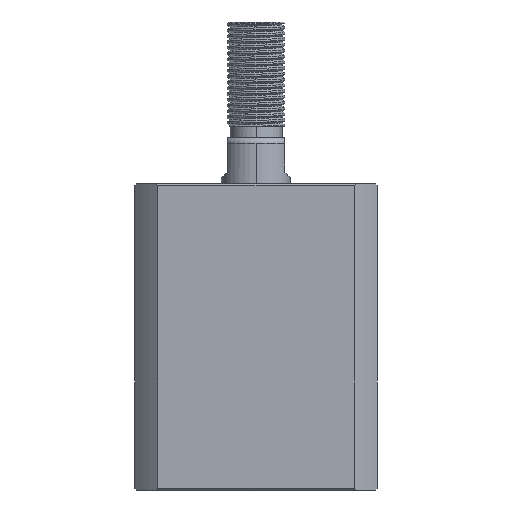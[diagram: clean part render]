
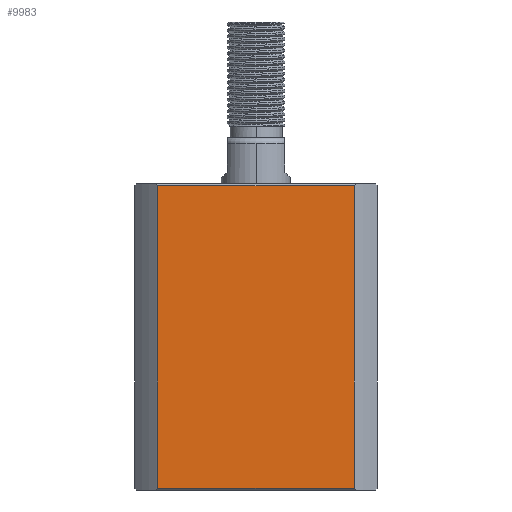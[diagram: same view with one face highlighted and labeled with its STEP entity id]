
A CAD part, left-side view. The second image highlights one B-rep face of the part: STEP entity #9983.
In plain terms, the highlighted planar face has unit normal (-1, 0, 0).
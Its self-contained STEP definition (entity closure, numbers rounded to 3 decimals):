
#394 = CARTESIAN_POINT ( 'NONE',  ( -21., 16.971, -247. ) ) ;
#684 = LINE ( 'NONE', #1807, #9586 ) ;
#775 = EDGE_CURVE ( 'NONE', #2539, #13524, #4224, .T. ) ;
#823 = ORIENTED_EDGE ( 'NONE', *, *, #3015, .F. ) ;
#978 = LINE ( 'NONE', #394, #10234 ) ;
#1384 = ORIENTED_EDGE ( 'NONE', *, *, #5243, .F. ) ;
#1807 = CARTESIAN_POINT ( 'NONE',  ( -21., -16.971, -247. ) ) ;
#1867 = CARTESIAN_POINT ( 'NONE',  ( -21., 21., 53. ) ) ;
#2209 = CARTESIAN_POINT ( 'NONE',  ( -21., 21., 52.7 ) ) ;
#2539 = VERTEX_POINT ( 'NONE', #11443 ) ;
#3015 = EDGE_CURVE ( 'NONE', #4461, #13524, #978, .T. ) ;
#3063 = CARTESIAN_POINT ( 'NONE',  ( -21., 16.971, 52.7 ) ) ;
#3993 = LINE ( 'NONE', #6546, #6735 ) ;
#4183 = PLANE ( 'NONE',  #4959 ) ;
#4188 = FACE_OUTER_BOUND ( 'NONE', #11724, .T. ) ;
#4224 = LINE ( 'NONE', #2209, #7686 ) ;
#4461 = VERTEX_POINT ( 'NONE', #9750 ) ;
#4931 = ORIENTED_EDGE ( 'NONE', *, *, #10514, .T. ) ;
#4959 = AXIS2_PLACEMENT_3D ( 'NONE', #1867, #12298, #5353 ) ;
#5243 = EDGE_CURVE ( 'NONE', #2539, #6705, #684, .T. ) ;
#5353 = DIRECTION ( 'NONE',  ( 0., 1., 0. ) ) ;
#5384 = DIRECTION ( 'NONE',  ( 0., -1., 0. ) ) ;
#6459 = DIRECTION ( 'NONE',  ( 0., 0., -1. ) ) ;
#6546 = CARTESIAN_POINT ( 'NONE',  ( -21., 21., 0.3 ) ) ;
#6705 = VERTEX_POINT ( 'NONE', #13454 ) ;
#6735 = VECTOR ( 'NONE', #5384, 1000. ) ;
#7367 = DIRECTION ( 'NONE',  ( 0., 0., 1. ) ) ;
#7686 = VECTOR ( 'NONE', #14978, 1000. ) ;
#7911 = ORIENTED_EDGE ( 'NONE', *, *, #775, .T. ) ;
#9586 = VECTOR ( 'NONE', #6459, 1000. ) ;
#9750 = CARTESIAN_POINT ( 'NONE',  ( -21., 16.971, 0.3 ) ) ;
#9983 = ADVANCED_FACE ( 'NONE', ( #4188 ), #4183, .F. ) ;
#10234 = VECTOR ( 'NONE', #7367, 1000. ) ;
#10514 = EDGE_CURVE ( 'NONE', #4461, #6705, #3993, .T. ) ;
#11443 = CARTESIAN_POINT ( 'NONE',  ( -21., -16.971, 52.7 ) ) ;
#11724 = EDGE_LOOP ( 'NONE', ( #823, #4931, #1384, #7911 ) ) ;
#12298 = DIRECTION ( 'NONE',  ( 1., 0., 0. ) ) ;
#13454 = CARTESIAN_POINT ( 'NONE',  ( -21., -16.971, 0.3 ) ) ;
#13524 = VERTEX_POINT ( 'NONE', #3063 ) ;
#14978 = DIRECTION ( 'NONE',  ( 0., 1., 0. ) ) ;
